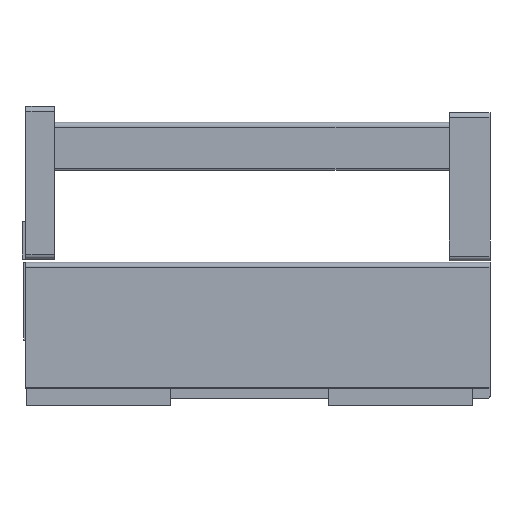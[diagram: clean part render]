
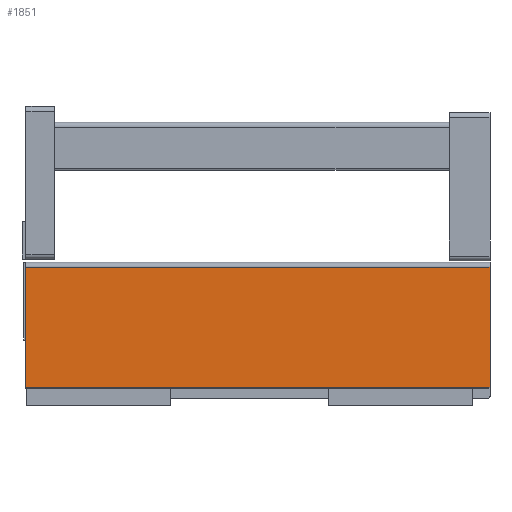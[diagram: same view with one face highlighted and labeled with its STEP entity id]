
A CAD part, left-side view. The second image highlights one B-rep face of the part: STEP entity #1851.
In plain terms, the highlighted planar face has unit normal (-1, 0, 0).
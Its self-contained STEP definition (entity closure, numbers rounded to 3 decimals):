
#52 = VECTOR ( 'NONE', #3109, 1000. ) ;
#53 = LINE ( 'NONE', #3108, #52 ) ;
#142 = VECTOR ( 'NONE', #3001, 1000. ) ;
#143 = LINE ( 'NONE', #3000, #142 ) ;
#425 = VECTOR ( 'NONE', #4318, 1000. ) ;
#426 = LINE ( 'NONE', #4317, #425 ) ;
#578 = VECTOR ( 'NONE', #4140, 1000. ) ;
#579 = LINE ( 'NONE', #4139, #578 ) ;
#823 = FACE_OUTER_BOUND ( 'NONE', #2058, .T. ) ;
#1435 = ORIENTED_EDGE ( 'NONE', *, *, #2459, .F. ) ;
#1436 = ORIENTED_EDGE ( 'NONE', *, *, #4507, .F. ) ;
#1437 = ORIENTED_EDGE ( 'NONE', *, *, #4455, .T. ) ;
#1438 = ORIENTED_EDGE ( 'NONE', *, *, #2317, .T. ) ;
#1694 = VERTEX_POINT ( 'NONE', #2083 ) ;
#1696 = VERTEX_POINT ( 'NONE', #3262 ) ;
#1851 = ADVANCED_FACE ( 'NONE', ( #823 ), #3675, .F. ) ;
#2058 = EDGE_LOOP ( 'NONE', ( #1435, #1436, #1437, #1438 ) ) ;
#2083 = CARTESIAN_POINT ( 'NONE',  ( -4.1, 290., 46.498 ) ) ;
#2317 = EDGE_CURVE ( 'NONE', #1696, #4531, #579, .T. ) ;
#2459 = EDGE_CURVE ( 'NONE', #2700, #4531, #426, .T. ) ;
#2518 = AXIS2_PLACEMENT_3D ( 'NONE', #3674, #3677, #3678 ) ;
#2700 = VERTEX_POINT ( 'NONE', #2909 ) ;
#2909 = CARTESIAN_POINT ( 'NONE',  ( -4.1, 0., 46.498 ) ) ;
#3000 = CARTESIAN_POINT ( 'NONE',  ( -4.1, 290., -7.702 ) ) ;
#3001 = DIRECTION ( 'NONE',  ( 0., 0., -1. ) ) ;
#3108 = CARTESIAN_POINT ( 'NONE',  ( -4.1, 290., 46.498 ) ) ;
#3109 = DIRECTION ( 'NONE',  ( 0., -1., 0. ) ) ;
#3155 = CARTESIAN_POINT ( 'NONE',  ( -4.1, 0., -28.503 ) ) ;
#3262 = CARTESIAN_POINT ( 'NONE',  ( -4.1, 290., -28.503 ) ) ;
#3674 = CARTESIAN_POINT ( 'NONE',  ( -4.1, 290., -28.503 ) ) ;
#3675 = PLANE ( 'NONE',  #2518 ) ;
#3677 = DIRECTION ( 'NONE',  ( 1., 0., 0. ) ) ;
#3678 = DIRECTION ( 'NONE',  ( 0., 0., -1. ) ) ;
#4139 = CARTESIAN_POINT ( 'NONE',  ( -4.1, 290., -28.503 ) ) ;
#4140 = DIRECTION ( 'NONE',  ( 0., -1., 0. ) ) ;
#4317 = CARTESIAN_POINT ( 'NONE',  ( -4.1, 0., -28.503 ) ) ;
#4318 = DIRECTION ( 'NONE',  ( 0., 0., -1. ) ) ;
#4455 = EDGE_CURVE ( 'NONE', #1694, #1696, #143, .T. ) ;
#4507 = EDGE_CURVE ( 'NONE', #1694, #2700, #53, .T. ) ;
#4531 = VERTEX_POINT ( 'NONE', #3155 ) ;
